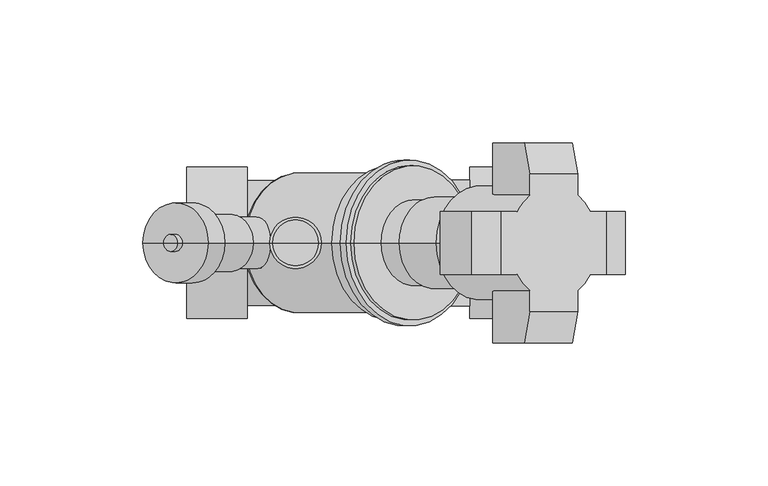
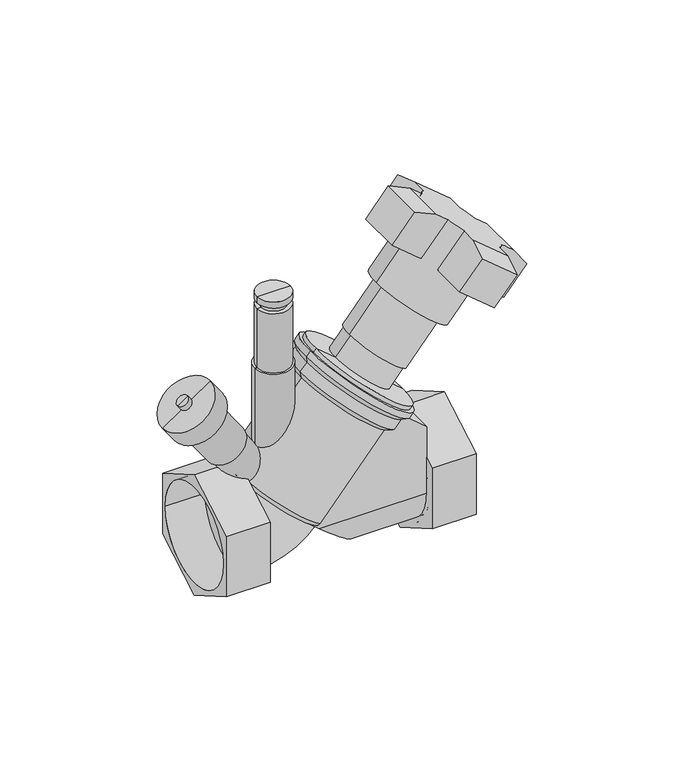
"""IFC4 building model written with IfcOpenShell, lengths in millimetres: valve geometry, 400_56_KOMF_VTR DN20-50 : DN 40, meet & vul/aftap."""

from ifc_helpers import new_model, si_unit, point, frame, origin, origin_2d, place, context, project, spatial, polyline, circle_curve, ellipse_curve, trimmed, segment, composite_curve, outline, extrude, source, transform, mapped, element, save
from ifc_brep_helpers import plane_surface, cylinder_surface, revolved_surface, advanced_brep


def valve_56e37d45(model_context):
    return source(origin(), model_context, "Body", "SolidModel", [
        advanced_brep(
        [(-38.9, -26.5, 15.2997821), (-38.9, -26.5, -15.2997821), (-38.9, 0.0, -30.5995643), (-38.9, 26.5, -15.2997821), (-38.9, 26.5, 15.2997821), (-38.9, 0.0, 30.5995643), (-60.0, -26.5, 15.2997821), (-60.0, 0.0, 30.5995643), (-60.0, 26.5, 15.2997821), (-60.0, 26.5, -15.2997821), (-60.0, 0.0, -30.5995643), (-60.0, -26.5, -15.2997821), (-60.0, -24.15, 0.0), (-60.0, 24.15, 0.0), (-40.9, -24.15, 0.0), (-40.9, 24.15, 0.0)],
        [
            (0, 1),
            (1, 2),
            (2, 3),
            (3, 4),
            (4, 5),
            (5, 0),
            (6, 7),
            (7, 8),
            (8, 9),
            (9, 10),
            (10, 11),
            (11, 6),
            (12, 13, circle_curve(frame((-60.0, 0.0, 0.0), z_axis=(1.0, 0.0, 0.0), x_axis=(0.0, 1.0, 0.0)), 24.15)),
            (13, 12, circle_curve(frame((-60.0, 0.0, 0.0), z_axis=(1.0, 0.0, 0.0), x_axis=(0.0, 1.0, 0.0)), 24.15)),
            (0, 6),
            (11, 1),
            (10, 2),
            (9, 3),
            (8, 4),
            (7, 5),
            (14, 15, circle_curve(frame((-40.9, 0.0, 0.0), z_axis=(-1.0, 0.0, 0.0), x_axis=(0.0, 1.0, 0.0)), 24.15)),
            (15, 14, circle_curve(frame((-40.9, 0.0, 0.0), z_axis=(-1.0, 0.0, 0.0), x_axis=(0.0, 1.0, 0.0)), 24.15)),
            (15, 13),
            (12, 14),
        ],
        [
            plane_surface(frame((-38.9, -26.5, 15.2997821), z_axis=(1.0, 0.0, 0.0), x_axis=(0.0, 0.0, -1.0))),
            plane_surface(frame((-60.0, -26.5, 15.2997821), z_axis=(-1.0, 0.0, 0.0), x_axis=(0.0, 0.0, 1.0))),
            plane_surface(frame((-38.9, -26.5, 15.2997821), z_axis=(0.0, -1.0, 0.0), x_axis=(-1.0, 0.0, 0.0))),
            plane_surface(frame((-38.9, -26.5, -15.2997821), z_axis=(0.0, -0.5000000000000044, -0.8660254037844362), x_axis=(-1.0, 0.0, 0.0))),
            plane_surface(frame((-38.9, 0.0, -30.5995643), z_axis=(0.0, 0.5000000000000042, -0.8660254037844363), x_axis=(-1.0, 0.0, 0.0))),
            plane_surface(frame((-38.9, 26.5, -15.2997821), z_axis=(0.0, 1.0, 0.0), x_axis=(-1.0, 0.0, 0.0))),
            plane_surface(frame((-38.9, 26.5, 15.2997821), z_axis=(0.0, 0.5000000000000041, 0.8660254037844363), x_axis=(-1.0, 0.0, 0.0))),
            plane_surface(frame((-38.9, 0.0, 30.5995643), z_axis=(0.0, -0.5000000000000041, 0.8660254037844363), x_axis=(-1.0, 0.0, 0.0))),
            plane_surface(frame((-40.9, 24.15, 0.0), z_axis=(-1.0, 0.0, 0.0), x_axis=(0.0, 0.0, 1.0))),
            revolved_surface(polyline([(-40.9, 24.15, 0.0), (-60.0, 24.15, 0.0)]), (-60.0, 0.0, 0.0), (1.0, 0.0, 0.0)),
        ],
        [
            (0, [[1, 2, 3, 4, 5, 6]]),
            (1, [[7, 8, 9, 10, 11, 12], [13, 14]]),
            (2, [[-1, 15, -12, 16]]),
            (3, [[-2, -16, -11, 17]]),
            (4, [[-3, -17, -10, 18]]),
            (5, [[-4, -18, -9, 19]]),
            (6, [[-5, -19, -8, 20]]),
            (7, [[-6, -20, -7, -15]]),
            (8, [[21, 22]]),
            (9, [[-22, 23, -13, 24]]),
            (9, [[-21, -24, -14, -23]]),
        ],
    ),
        advanced_brep(
        [(60.0, -26.5, 15.2997821), (60.0, -26.5, -15.2997821), (60.0, 0.0, -30.5995643), (60.0, 26.5, -15.2997821), (60.0, 26.5, 15.2997821), (60.0, 0.0, 30.5995643), (60.0, 24.15, 0.0), (60.0, -24.15, 0.0), (38.9, -26.5, 15.2997821), (38.9, 0.0, 30.5995643), (38.9, 26.5, 15.2997821), (38.9, 26.5, -15.2997821), (38.9, 0.0, -30.5995643), (38.9, -26.5, -15.2997821), (40.9, -24.15, 0.0), (40.9, 24.15, 0.0)],
        [
            (0, 1),
            (1, 2),
            (2, 3),
            (3, 4),
            (4, 5),
            (5, 0),
            (6, 7, circle_curve(frame((60.0, 0.0, 0.0), z_axis=(-1.0, 0.0, 0.0), x_axis=(0.0, 1.0, 0.0)), 24.15)),
            (7, 6, circle_curve(frame((60.0, 0.0, 0.0), z_axis=(-1.0, 0.0, 0.0), x_axis=(0.0, 1.0, 0.0)), 24.15)),
            (8, 9),
            (9, 10),
            (10, 11),
            (11, 12),
            (12, 13),
            (13, 8),
            (0, 8),
            (13, 1),
            (12, 2),
            (11, 3),
            (10, 4),
            (9, 5),
            (14, 15, circle_curve(frame((40.9, 0.0, 0.0), z_axis=(1.0, 0.0, 0.0), x_axis=(0.0, 1.0, 0.0)), 24.15)),
            (15, 14, circle_curve(frame((40.9, 0.0, 0.0), z_axis=(1.0, 0.0, 0.0), x_axis=(0.0, 1.0, 0.0)), 24.15)),
            (14, 7),
            (6, 15),
        ],
        [
            plane_surface(frame((60.0, -26.5, 15.2997821), z_axis=(1.0, 0.0, 0.0), x_axis=(0.0, 0.0, -1.0))),
            plane_surface(frame((38.9, -26.5, 15.2997821), z_axis=(-1.0, 0.0, 0.0), x_axis=(0.0, 0.0, 1.0))),
            plane_surface(frame((60.0, -26.5, 15.2997821), z_axis=(0.0, -1.0, 0.0), x_axis=(-1.0, 0.0, 0.0))),
            plane_surface(frame((60.0, -26.5, -15.2997821), z_axis=(0.0, -0.5000000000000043, -0.8660254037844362), x_axis=(-1.0, 0.0, 0.0))),
            plane_surface(frame((60.0, 0.0, -30.5995643), z_axis=(0.0, 0.5000000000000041, -0.8660254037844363), x_axis=(-1.0, 0.0, 0.0))),
            plane_surface(frame((60.0, 26.5, -15.2997821), z_axis=(0.0, 1.0, 0.0), x_axis=(-1.0, 0.0, 0.0))),
            plane_surface(frame((60.0, 26.5, 15.2997821), z_axis=(0.0, 0.5000000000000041, 0.8660254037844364), x_axis=(-1.0, 0.0, 0.0))),
            plane_surface(frame((60.0, 0.0, 30.5995643), z_axis=(0.0, -0.5000000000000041, 0.8660254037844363), x_axis=(-1.0, 0.0, 0.0))),
            plane_surface(frame((40.9, 24.15, 0.0), z_axis=(1.0, 0.0, 0.0), x_axis=(0.0, 0.0, -1.0))),
            revolved_surface(polyline([(60.0, 24.15, 0.0), (40.9, 24.15, 0.0)]), (40.9, 0.0, 0.0), (1.0, 0.0, 0.0)),
        ],
        [
            (0, [[1, 2, 3, 4, 5, 6], [7, 8]]),
            (1, [[9, 10, 11, 12, 13, 14]]),
            (2, [[-1, 15, -14, 16]]),
            (3, [[-2, -16, -13, 17]]),
            (4, [[-3, -17, -12, 18]]),
            (5, [[-4, -18, -11, 19]]),
            (6, [[-5, -19, -10, 20]]),
            (7, [[-6, -20, -9, -15]]),
            (8, [[21, 22]]),
            (9, [[-21, 23, -7, 24]]),
            (9, [[-22, -24, -8, -23]]),
        ],
    ),
        extrude(outline(polyline([(22.0, 40.9), (42.7748916, 32.7963256), (55.3534281, 17.8058095), (0.0, 16.9973074), (0.0, 40.9), (22.0, 40.9)])), frame((0.0, -2.0, 0.0), z_axis=(0.0, 1.0, 0.0), x_axis=(0.0, 0.0, 1.0)), (0.0, 0.0, 1.0), 4.0),
        extrude(outline(composite_curve([segment(trimmed(circle_curve(origin_2d(), 24.15), [point((0.0, -24.15))], [point((0.0, 24.15))], False, "CARTESIAN"), True, "CONTINUOUS"), segment(trimmed(circle_curve(origin_2d(), 24.15), [point((0.0, 24.15))], [point((0.0, -24.15))], False, "CARTESIAN"), True, "CONTINUOUS")], self_intersect=False)), frame((38.9, 0.0, 0.0), z_axis=(1.0, 0.0, 0.0), x_axis=(0.0, 1.0, 0.0)), (0.0, 0.0, 1.0), 2.0),
        advanced_brep(
        [(19.0913848, 0.0, 56.8855169), (39.7745847, 0.0, 39.5302515), (-1.5918152, 0.0, 74.2407824), (-39.2830222, 0.0, 22.3213938), (-4.8110223, 0.0, -6.6040486), (-22.0470223, 0.0, 7.8586726), (-8.6757306, 0.0, 61.9091912), (28.8604471, 0.0, 30.4125983), (-1.9933582, 0.0, -6.357535), (-39.5295359, 0.0, 25.1390579), (-9.3052665, 0.0, 65.0482491), (32.0611334, 0.0, 30.3377182), (-6.0913285, 0.0, 68.8784713), (35.2750715, 0.0, 34.1679404), (-6.3378421, 0.0, 71.6961354), (38.0927356, 0.0, 34.4144541), (-4.4094793, 0.0, 73.9942687), (40.0210984, 0.0, 36.7125874), (-2.8773904, 0.0, 72.7086935), (38.4890095, 0.0, 37.9981626)],
        [
            (0, 1),
            (1, 2, circle_curve(frame((19.0913848, 0.0, 56.8855169), z_axis=(0.6427876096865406, 0.0, 0.7660444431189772), x_axis=(0.7660444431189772, 0.0, -0.6427876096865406)), 27.0)),
            (2, 0),
            (2, 1, circle_curve(frame((19.0913848, 0.0, 56.8855169), z_axis=(0.6427876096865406, 0.0, 0.7660444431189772), x_axis=(0.7660444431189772, 0.0, -0.6427876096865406)), 27.0)),
            (3, 4, circle_curve(frame((-22.0470223, 0.0, 7.8586726), z_axis=(-0.6427876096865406, 0.0, -0.7660444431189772), x_axis=(0.7660444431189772, 0.0, -0.6427876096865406)), 22.5)),
            (4, 5),
            (5, 3),
            (4, 3, circle_curve(frame((-22.0470223, 0.0, 7.8586726), z_axis=(-0.6427876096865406, 0.0, -0.7660444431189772), x_axis=(0.7660444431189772, 0.0, -0.6427876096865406)), 22.5)),
            (6, 7, circle_curve(frame((10.0923582, 0.0, 46.1608947), z_axis=(-0.6427876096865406, 0.0, -0.7660444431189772), x_axis=(0.7660444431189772, 0.0, -0.6427876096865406)), 24.5)),
            (7, 8),
            (8, 9, circle_curve(frame((-20.761447, 0.0, 9.3907615), z_axis=(0.6427876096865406, 0.0, 0.7660444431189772), x_axis=(0.7660444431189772, 0.0, -0.6427876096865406)), 24.5)),
            (9, 6),
            (7, 6, circle_curve(frame((10.0923582, 0.0, 46.1608947), z_axis=(-0.6427876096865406, 0.0, -0.7660444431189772), x_axis=(0.7660444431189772, 0.0, -0.6427876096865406)), 24.5)),
            (9, 8, circle_curve(frame((-20.761447, 0.0, 9.3907615), z_axis=(0.6427876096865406, 0.0, 0.7660444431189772), x_axis=(0.7660444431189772, 0.0, -0.6427876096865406)), 24.5)),
            (6, 10),
            (10, 11, circle_curve(frame((11.3779335, 0.0, 47.6929836), z_axis=(-0.6427876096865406, 0.0, -0.7660444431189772), x_axis=(0.7660444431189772, 0.0, -0.6427876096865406)), 27.0)),
            (11, 7),
            (11, 10, circle_curve(frame((11.3779335, 0.0, 47.6929836), z_axis=(-0.6427876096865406, 0.0, -0.7660444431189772), x_axis=(0.7660444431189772, 0.0, -0.6427876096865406)), 27.0)),
            (10, 12),
            (12, 13, circle_curve(frame((14.5918715, 0.0, 51.5232058), z_axis=(-0.6427876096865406, 0.0, -0.7660444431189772), x_axis=(0.7660444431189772, 0.0, -0.6427876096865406)), 27.0)),
            (13, 11),
            (13, 12, circle_curve(frame((14.5918715, 0.0, 51.5232058), z_axis=(-0.6427876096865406, 0.0, -0.7660444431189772), x_axis=(0.7660444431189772, 0.0, -0.6427876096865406)), 27.0)),
            (12, 14),
            (14, 15, circle_curve(frame((15.8774467, 0.0, 53.0552947), z_axis=(-0.6427876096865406, 0.0, -0.7660444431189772), x_axis=(0.7660444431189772, 0.0, -0.6427876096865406)), 29.0)),
            (15, 13),
            (15, 14, circle_curve(frame((15.8774467, 0.0, 53.0552947), z_axis=(-0.6427876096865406, 0.0, -0.7660444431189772), x_axis=(0.7660444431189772, 0.0, -0.6427876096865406)), 29.0)),
            (14, 16),
            (16, 17, circle_curve(frame((17.8058095, 0.0, 55.3534281), z_axis=(-0.6427876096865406, 0.0, -0.7660444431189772), x_axis=(0.7660444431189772, 0.0, -0.6427876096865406)), 29.0)),
            (17, 15),
            (17, 16, circle_curve(frame((17.8058095, 0.0, 55.3534281), z_axis=(-0.6427876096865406, 0.0, -0.7660444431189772), x_axis=(0.7660444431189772, 0.0, -0.6427876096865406)), 29.0)),
            (16, 18),
            (18, 19, circle_curve(frame((17.8058095, 0.0, 55.3534281), z_axis=(-0.6427876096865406, 0.0, -0.7660444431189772), x_axis=(0.7660444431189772, 0.0, -0.6427876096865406)), 27.0)),
            (19, 17),
            (19, 18, circle_curve(frame((17.8058095, 0.0, 55.3534281), z_axis=(-0.6427876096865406, 0.0, -0.7660444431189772), x_axis=(0.7660444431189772, 0.0, -0.6427876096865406)), 27.0)),
            (1, 19),
            (18, 2),
            (3, 9, circle_curve(frame((-37.997447, 0.0, 23.8534827), z_axis=(0.0, 1.0000000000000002, 0.0), x_axis=(0.6427876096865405, 0.0, 0.766044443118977)), 2.0)),
            (8, 4, circle_curve(frame((-3.5254471, 0.0, -5.0719597), z_axis=(0.0, 1.0000000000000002, 0.0), x_axis=(0.6427876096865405, 0.0, 0.766044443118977)), 2.0)),
        ],
        [
            plane_surface(frame((19.0913848, 0.0, 56.8855169), z_axis=(0.6427876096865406, 0.0, 0.7660444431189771), x_axis=(0.7660444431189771, 0.0, -0.6427876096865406))),
            plane_surface(frame((-22.0470223, 0.0, 7.8586726), z_axis=(-0.6427876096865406, 0.0, -0.7660444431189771), x_axis=(0.7660444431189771, 0.0, -0.6427876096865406))),
            cylinder_surface(frame((-28.6412315, 0.0, 0.0), z_axis=(0.6427876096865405, 0.0, 0.766044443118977), x_axis=(0.7660444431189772, 0.0, -0.6427876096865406)), 24.5),
            revolved_surface(polyline([(28.8604471, 0.0, 30.4125983), (32.0611334, 0.0, 30.3377182)]), (-28.6412315, 0.0, 0.0), (0.6427876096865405, 0.0, 0.766044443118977)),
            cylinder_surface(frame((-28.6412315, 0.0, 0.0), z_axis=(0.6427876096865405, 0.0, 0.766044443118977), x_axis=(0.7660444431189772, 0.0, -0.6427876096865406)), 27.0),
            revolved_surface(polyline([(35.2750715, 0.0, 34.1679404), (38.0927356, 0.0, 34.4144541)]), (-28.6412315, 0.0, 0.0), (0.6427876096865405, 0.0, 0.766044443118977)),
            cylinder_surface(frame((-28.6412315, 0.0, 0.0), z_axis=(0.6427876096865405, 0.0, 0.766044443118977), x_axis=(0.7660444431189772, 0.0, -0.6427876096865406)), 29.0),
            plane_surface(frame((17.8058095, 0.0, 55.3534281), z_axis=(0.6427876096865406, 0.0, 0.7660444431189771), x_axis=(0.7660444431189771, 0.0, -0.6427876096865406))),
            revolved_surface(trimmed(ellipse_curve(frame((-3.5254471, 0.0, -5.0719597), z_axis=(0.0, -1.0000000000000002, 0.0), x_axis=(0.6427876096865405, 0.0, 0.766044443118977)), 2.0, 2.0), [point((-4.8110223, 0.0, -6.6040486))], [point((-1.9933582, 0.0, -6.357535))], True, "CARTESIAN"), (-28.6412315, 0.0, 0.0), (0.6427876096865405, 0.0, 0.766044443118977)),
        ],
        [
            (0, [[1, 2, 3]]),
            (0, [[-1, -3, 4]]),
            (1, [[5, 6, 7]]),
            (1, [[-6, 8, -7]]),
            (2, [[9, 10, 11, 12]]),
            (2, [[-10, 13, -12, 14]]),
            (3, [[-9, 15, 16, 17]]),
            (3, [[-13, -17, 18, -15]]),
            (4, [[-16, 19, 20, 21]]),
            (4, [[-18, -21, 22, -19]]),
            (5, [[-20, 23, 24, 25]]),
            (5, [[-22, -25, 26, -23]]),
            (6, [[-24, 27, 28, 29]]),
            (6, [[-26, -29, 30, -27]]),
            (7, [[-28, 31, 32, 33]]),
            (7, [[-30, -33, 34, -31]]),
            (4, [[-2, 35, -32, 36]]),
            (4, [[-4, -36, -34, -35]]),
            (8, [[-5, 37, -11, 38]]),
            (8, [[-8, -38, -14, -37]]),
        ],
    ),
        advanced_brep(
        [(-31.0470223, 0.0, 74.4939245), (-13.0470223, 0.0, 74.4939245), (-13.0470223, 0.0, 7.8586726), (-31.0470223, 0.0, 7.8586726), (-30.0470223, 0.0, 74.4939245), (-14.0470223, 0.0, 74.4939245), (-30.0470223, 0.0, 104.4939245), (-14.0470223, 0.0, 104.4939245), (-28.0470223, 0.0, 104.4939245), (-16.0470223, 0.0, 104.4939245), (-22.0470223, 0.0, 7.8586726), (-28.0470223, 0.0, 107.4939245), (-16.0470223, 0.0, 107.4939245), (-30.0470223, 0.0, 107.4939245), (-14.0470223, 0.0, 107.4939245), (-30.0470223, 0.0, 110.4939245), (-14.0470223, 0.0, 110.4939245), (-22.0470223, 0.0, 110.4939245)],
        [
            (0, 1, circle_curve(frame((-22.0470223, 0.0, 74.4939245), z_axis=(0.0, 0.0, -1.0), x_axis=(1.0, 0.0, 0.0)), 9.0)),
            (1, 2),
            (2, 3, circle_curve(frame((-22.0470223, 0.0, 7.8586726), z_axis=(0.0, 0.0, 1.0), x_axis=(1.0, 0.0, 0.0)), 9.0)),
            (3, 0),
            (1, 0, circle_curve(frame((-22.0470223, 0.0, 74.4939245), z_axis=(0.0, 0.0, -1.0), x_axis=(1.0, 0.0, 0.0)), 9.0)),
            (3, 2, circle_curve(frame((-22.0470223, 0.0, 7.8586726), z_axis=(0.0, 0.0, 1.0), x_axis=(1.0, 0.0, 0.0)), 9.0)),
            (4, 5, circle_curve(frame((-22.0470223, 0.0, 74.4939245), z_axis=(0.0, 0.0, -1.0), x_axis=(1.0, 0.0, 0.0)), 8.0)),
            (5, 1),
            (0, 4),
            (5, 4, circle_curve(frame((-22.0470223, 0.0, 74.4939245), z_axis=(0.0, 0.0, -1.0), x_axis=(1.0, 0.0, 0.0)), 8.0)),
            (6, 7, circle_curve(frame((-22.0470223, 0.0, 104.4939245), z_axis=(0.0, 0.0, -1.0), x_axis=(1.0, 0.0, 0.0)), 8.0)),
            (7, 5),
            (4, 6),
            (7, 6, circle_curve(frame((-22.0470223, 0.0, 104.4939245), z_axis=(0.0, 0.0, -1.0), x_axis=(1.0, 0.0, 0.0)), 8.0)),
            (8, 9, circle_curve(frame((-22.0470223, 0.0, 104.4939245), z_axis=(0.0, 0.0, -1.0), x_axis=(1.0, 0.0, 0.0)), 6.0)),
            (9, 7),
            (6, 8),
            (9, 8, circle_curve(frame((-22.0470223, 0.0, 104.4939245), z_axis=(0.0, 0.0, -1.0), x_axis=(1.0, 0.0, 0.0)), 6.0)),
            (2, 10),
            (10, 3),
            (11, 12, circle_curve(frame((-22.0470223, 0.0, 107.4939245), z_axis=(0.0, 0.0, -1.0), x_axis=(1.0, 0.0, 0.0)), 6.0)),
            (12, 9),
            (8, 11),
            (12, 11, circle_curve(frame((-22.0470223, 0.0, 107.4939245), z_axis=(0.0, 0.0, -1.0), x_axis=(1.0, 0.0, 0.0)), 6.0)),
            (13, 14, circle_curve(frame((-22.0470223, 0.0, 107.4939245), z_axis=(0.0, 0.0, -1.0), x_axis=(1.0, 0.0, 0.0)), 8.0)),
            (14, 12),
            (11, 13),
            (14, 13, circle_curve(frame((-22.0470223, 0.0, 107.4939245), z_axis=(0.0, 0.0, -1.0), x_axis=(1.0, 0.0, 0.0)), 8.0)),
            (15, 16, circle_curve(frame((-22.0470223, 0.0, 110.4939245), z_axis=(0.0, 0.0, -1.0), x_axis=(1.0, 0.0, 0.0)), 8.0)),
            (16, 14),
            (13, 15),
            (16, 15, circle_curve(frame((-22.0470223, 0.0, 110.4939245), z_axis=(0.0, 0.0, -1.0), x_axis=(1.0, 0.0, 0.0)), 8.0)),
            (17, 16),
            (15, 17),
        ],
        [
            cylinder_surface(frame((-22.0470223, 0.0, 7.8586726), z_axis=(0.0, 0.0, 1.0), x_axis=(1.0, 0.0, 0.0)), 9.0),
            plane_surface(frame((-22.0470223, 0.0, 74.4939245), z_axis=(0.0, 0.0, 1.0), x_axis=(1.0, 0.0, 0.0))),
            cylinder_surface(frame((-22.0470223, 0.0, 7.8586726), z_axis=(0.0, 0.0, 1.0), x_axis=(1.0, 0.0, 0.0)), 8.0),
            plane_surface(frame((-22.0470223, 0.0, 104.4939245), z_axis=(0.0, 0.0, 1.0), x_axis=(1.0, 0.0, 0.0))),
            plane_surface(frame((-22.0470223, 0.0, 7.8586726), z_axis=(0.0, 0.0, -1.0), x_axis=(1.0, 0.0, 0.0))),
            cylinder_surface(frame((-22.0470223, 0.0, 7.8586726), z_axis=(0.0, 0.0, 1.0), x_axis=(1.0, 0.0, 0.0)), 6.0),
            plane_surface(frame((-22.0470223, 0.0, 107.4939245), z_axis=(0.0, 0.0, -1.0), x_axis=(1.0, 0.0, 0.0))),
            plane_surface(frame((-22.0470223, 0.0, 110.4939245), z_axis=(0.0, 0.0, 1.0), x_axis=(1.0, 0.0, 0.0))),
        ],
        [
            (0, [[1, 2, 3, 4]]),
            (0, [[5, -4, 6, -2]]),
            (1, [[7, 8, -1, 9]]),
            (1, [[10, -9, -5, -8]]),
            (2, [[11, 12, -7, 13]]),
            (2, [[14, -13, -10, -12]]),
            (3, [[15, 16, -11, 17]]),
            (3, [[18, -17, -14, -16]]),
            (4, [[-3, 19, 20]]),
            (4, [[-6, -20, -19]]),
            (5, [[21, 22, -15, 23]]),
            (5, [[24, -23, -18, -22]]),
            (6, [[25, 26, -21, 27]]),
            (6, [[28, -27, -24, -26]]),
            (2, [[29, 30, -25, 31]]),
            (2, [[32, -31, -28, -30]]),
            (7, [[33, -29, 34]]),
            (7, [[-34, -32, -33]]),
        ],
    ),
        advanced_brep(
        [(-66.0458574, 0.0, 51.5176065), (-48.0245124, 0.0, 64.1362881), (-48.8436644, 0.0, 63.5627117), (-65.2267053, 0.0, 52.0911829), (-29.4193906, 0.0, 2.6964847), (-14.6746539, 0.0, 13.0208605), (-22.0470223, 0.0, 7.8586726), (-52.3624481, 0.0, 35.4625664), (-37.6177113, 0.0, 45.7869423), (-53.1816001, 0.0, 34.88899), (-36.7985593, 0.0, 46.3605187), (-67.1930102, 0.0, 53.1559106), (-49.1716653, 0.0, 65.7745922), (-69.6504664, 0.0, 51.4351813), (-46.7142091, 0.0, 67.4953215), (-75.3862307, 0.0, 59.6267017), (-52.4499735, 0.0, 75.6868419), (-66.3755582, 0.0, 65.9360425), (-61.460646, 0.0, 69.3775011), (-68.0962875, 0.0, 68.3934986), (-63.1813753, 0.0, 71.8349573), (-65.6388314, 0.0, 70.114228)],
        [
            (0, 1, circle_curve(frame((-57.0351849, 0.0, 57.8269473), z_axis=(0.5735764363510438, 0.0, -0.8191520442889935), x_axis=(0.8191520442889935, 0.0, 0.5735764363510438)), 11.0)),
            (1, 2),
            (2, 3, circle_curve(frame((-57.0351849, 0.0, 57.8269473), z_axis=(-0.5735764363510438, 0.0, 0.8191520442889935), x_axis=(0.8191520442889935, 0.0, 0.5735764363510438)), 10.0)),
            (3, 0),
            (1, 0, circle_curve(frame((-57.0351849, 0.0, 57.8269473), z_axis=(0.5735764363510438, 0.0, -0.8191520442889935), x_axis=(0.8191520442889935, 0.0, 0.5735764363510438)), 11.0)),
            (3, 2, circle_curve(frame((-57.0351849, 0.0, 57.8269473), z_axis=(-0.5735764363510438, 0.0, 0.8191520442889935), x_axis=(0.8191520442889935, 0.0, 0.5735764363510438)), 10.0)),
            (4, 5, circle_curve(frame((-22.0470223, 0.0, 7.8586726), z_axis=(0.5735764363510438, 0.0, -0.8191520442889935), x_axis=(0.8191520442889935, 0.0, 0.5735764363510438)), 9.0)),
            (5, 6),
            (6, 4),
            (5, 4, circle_curve(frame((-22.0470223, 0.0, 7.8586726), z_axis=(0.5735764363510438, 0.0, -0.8191520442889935), x_axis=(0.8191520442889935, 0.0, 0.5735764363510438)), 9.0)),
            (7, 8, circle_curve(frame((-44.9900797, 0.0, 40.6247544), z_axis=(0.5735764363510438, 0.0, -0.8191520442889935), x_axis=(0.8191520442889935, 0.0, 0.5735764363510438)), 9.0)),
            (8, 5),
            (4, 7),
            (8, 7, circle_curve(frame((-44.9900797, 0.0, 40.6247544), z_axis=(0.5735764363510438, 0.0, -0.8191520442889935), x_axis=(0.8191520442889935, 0.0, 0.5735764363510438)), 9.0)),
            (9, 10, circle_curve(frame((-44.9900797, 0.0, 40.6247544), z_axis=(0.5735764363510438, 0.0, -0.8191520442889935), x_axis=(0.8191520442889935, 0.0, 0.5735764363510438)), 10.0)),
            (10, 8),
            (7, 9),
            (10, 9, circle_curve(frame((-44.9900797, 0.0, 40.6247544), z_axis=(0.5735764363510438, 0.0, -0.8191520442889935), x_axis=(0.8191520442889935, 0.0, 0.5735764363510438)), 10.0)),
            (2, 10),
            (9, 3),
            (11, 12, circle_curve(frame((-58.1823377, 0.0, 59.4652514), z_axis=(0.5735764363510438, 0.0, -0.8191520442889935), x_axis=(0.8191520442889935, 0.0, 0.5735764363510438)), 11.0)),
            (12, 1),
            (0, 11),
            (12, 11, circle_curve(frame((-58.1823377, 0.0, 59.4652514), z_axis=(0.5735764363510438, 0.0, -0.8191520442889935), x_axis=(0.8191520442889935, 0.0, 0.5735764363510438)), 11.0)),
            (13, 14, circle_curve(frame((-58.1823377, 0.0, 59.4652514), z_axis=(0.5735764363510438, 0.0, -0.8191520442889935), x_axis=(0.8191520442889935, 0.0, 0.5735764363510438)), 14.0)),
            (14, 12),
            (11, 13),
            (14, 13, circle_curve(frame((-58.1823377, 0.0, 59.4652514), z_axis=(0.5735764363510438, 0.0, -0.8191520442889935), x_axis=(0.8191520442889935, 0.0, 0.5735764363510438)), 14.0)),
            (15, 16, circle_curve(frame((-63.9181021, 0.0, 67.6567718), z_axis=(0.5735764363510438, 0.0, -0.8191520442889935), x_axis=(0.8191520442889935, 0.0, 0.5735764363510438)), 14.0)),
            (16, 14),
            (13, 15),
            (16, 15, circle_curve(frame((-63.9181021, 0.0, 67.6567718), z_axis=(0.5735764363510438, 0.0, -0.8191520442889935), x_axis=(0.8191520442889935, 0.0, 0.5735764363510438)), 14.0)),
            (17, 18, circle_curve(frame((-63.9181021, 0.0, 67.6567718), z_axis=(0.5735764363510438, 0.0, -0.8191520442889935), x_axis=(0.8191520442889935, 0.0, 0.5735764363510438)), 3.0)),
            (18, 16),
            (15, 17),
            (18, 17, circle_curve(frame((-63.9181021, 0.0, 67.6567718), z_axis=(0.5735764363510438, 0.0, -0.8191520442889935), x_axis=(0.8191520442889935, 0.0, 0.5735764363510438)), 3.0)),
            (19, 20, circle_curve(frame((-65.6388314, 0.0, 70.114228), z_axis=(0.5735764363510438, 0.0, -0.8191520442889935), x_axis=(0.8191520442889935, 0.0, 0.5735764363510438)), 3.0)),
            (20, 18),
            (17, 19),
            (20, 19, circle_curve(frame((-65.6388314, 0.0, 70.114228), z_axis=(0.5735764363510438, 0.0, -0.8191520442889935), x_axis=(0.8191520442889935, 0.0, 0.5735764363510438)), 3.0)),
            (21, 20),
            (19, 21),
        ],
        [
            plane_surface(frame((-57.0351849, 0.0, 57.8269473), z_axis=(0.5735764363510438, 0.0, -0.8191520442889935), x_axis=(0.8191520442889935, 0.0, 0.5735764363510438))),
            plane_surface(frame((-22.0470223, 0.0, 7.8586726), z_axis=(0.5735764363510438, 0.0, -0.8191520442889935), x_axis=(0.8191520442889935, 0.0, 0.5735764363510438))),
            cylinder_surface(frame((-22.0470223, 0.0, 7.8586726), z_axis=(-0.5735764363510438, 0.0, 0.8191520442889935), x_axis=(0.8191520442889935, 0.0, 0.5735764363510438)), 9.0),
            plane_surface(frame((-44.9900797, 0.0, 40.6247544), z_axis=(0.5735764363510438, 0.0, -0.8191520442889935), x_axis=(0.8191520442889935, 0.0, 0.5735764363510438))),
            cylinder_surface(frame((-22.0470223, 0.0, 7.8586726), z_axis=(-0.5735764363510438, 0.0, 0.8191520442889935), x_axis=(0.8191520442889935, 0.0, 0.5735764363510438)), 10.0),
            cylinder_surface(frame((-22.0470223, 0.0, 7.8586726), z_axis=(-0.5735764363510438, 0.0, 0.8191520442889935), x_axis=(0.8191520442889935, 0.0, 0.5735764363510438)), 11.0),
            plane_surface(frame((-58.1823377, 0.0, 59.4652514), z_axis=(0.5735764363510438, 0.0, -0.8191520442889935), x_axis=(0.8191520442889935, 0.0, 0.5735764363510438))),
            cylinder_surface(frame((-22.0470223, 0.0, 7.8586726), z_axis=(-0.5735764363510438, 0.0, 0.8191520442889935), x_axis=(0.8191520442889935, 0.0, 0.5735764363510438)), 14.0),
            plane_surface(frame((-63.9181021, 0.0, 67.6567718), z_axis=(-0.5735764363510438, 0.0, 0.8191520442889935), x_axis=(0.8191520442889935, 0.0, 0.5735764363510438))),
            cylinder_surface(frame((-22.0470223, 0.0, 7.8586726), z_axis=(-0.5735764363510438, 0.0, 0.8191520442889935), x_axis=(0.8191520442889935, 0.0, 0.5735764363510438)), 3.0),
            plane_surface(frame((-65.6388314, 0.0, 70.114228), z_axis=(-0.5735764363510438, 0.0, 0.8191520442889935), x_axis=(0.8191520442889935, 0.0, 0.5735764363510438))),
        ],
        [
            (0, [[1, 2, 3, 4]]),
            (0, [[5, -4, 6, -2]]),
            (1, [[7, 8, 9]]),
            (1, [[10, -9, -8]]),
            (2, [[11, 12, -7, 13]]),
            (2, [[14, -13, -10, -12]]),
            (3, [[15, 16, -11, 17]]),
            (3, [[18, -17, -14, -16]]),
            (4, [[-3, 19, -15, 20]]),
            (4, [[-6, -20, -18, -19]]),
            (5, [[21, 22, -1, 23]]),
            (5, [[24, -23, -5, -22]]),
            (6, [[25, 26, -21, 27]]),
            (6, [[28, -27, -24, -26]]),
            (7, [[29, 30, -25, 31]]),
            (7, [[32, -31, -28, -30]]),
            (8, [[33, 34, -29, 35]]),
            (8, [[36, -35, -32, -34]]),
            (9, [[37, 38, -33, 39]]),
            (9, [[40, -39, -36, -38]]),
            (10, [[41, -37, 42]]),
            (10, [[-42, -40, -41]]),
        ],
    ),
        advanced_brep(
        [(15.0049567, 0.0, 75.351359), (37.98629, 0.0, 56.0677307), (30.5820514, 0.0, 47.2437028), (7.6007181, 0.0, 66.5273311), (14.2389122, 0.0, 75.9941466), (38.7523344, 0.0, 55.4249431), (30.3086025, 0.0, 95.1452577), (54.8220247, 0.0, 74.5760542), (27.2444247, 0.0, 97.7164081), (57.8862024, 0.0, 72.0049037), (40.1001769, 0.0, 113.037297), (42.6256009, 11.0, 110.9182146), (55.4813531, 11.0, 126.2391035), (59.8503291, 16.7032931, 122.5730974), (46.9945769, 16.7032931, 107.2522085), (63.8475546, 16.7032931, 93.1108811), (76.7033068, 16.7032931, 108.43177), (81.0722828, 11.0, 104.7657638), (68.2165306, 11.0, 89.444875), (70.7419546, 0.0, 87.3257926), (68.2165306, -11.0, 89.444875), (81.0722828, -11.0, 104.7657638), (76.7033068, -16.7032931, 108.43177), (63.8475546, -16.7032931, 93.1108811), (46.9945769, -16.7032931, 107.2522085), (59.8503291, -16.7032931, 122.5730974), (55.4813531, -11.0, 126.2391035), (42.6256009, -11.0, 110.9182146), (86.6618846, -11.0, 100.075531), (86.6618846, 11.0, 100.075531), (76.7033068, 24.0, 108.43177), (59.8503291, 24.0, 122.5730974), (49.8917513, 11.0, 130.9293363), (49.8917513, -11.0, 130.9293363), (59.8503291, -24.0, 122.5730974), (76.7033068, -24.0, 108.43177), (19.0913848, 0.0, 56.8855169), (39.5368996, -11.0, 135.7018667), (28.6095103, -11.0, 122.6791111), (82.2326213, -11.0, 77.6839785), (93.1600106, -11.0, 90.706734), (93.1600106, 11.0, 90.706734), (82.2326213, 11.0, 77.6839785), (28.6095103, 11.0, 122.6791111), (39.5368996, 11.0, 135.7018667), (63.8475546, 35.0, 93.1108811), (74.774944, 35.0, 106.1336366), (74.774944, -35.0, 106.1336366), (63.8475546, -35.0, 93.1108811), (46.9945769, -35.0, 107.2522085), (57.9219663, -35.0, 120.274964), (57.9219663, 35.0, 120.274964), (46.9945769, 35.0, 107.2522085)],
        [
            (0, 1, circle_curve(frame((26.4956233, 0.0, 65.7095449), z_axis=(-0.6427876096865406, 0.0, -0.7660444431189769), x_axis=(0.7660444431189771, 0.0, -0.6427876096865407)), 15.0)),
            (1, 2),
            (2, 3, circle_curve(frame((19.0913848, 0.0, 56.8855169), z_axis=(0.6427876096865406, 0.0, 0.7660444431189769), x_axis=(0.7660444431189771, 0.0, -0.6427876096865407)), 15.0)),
            (3, 0),
            (1, 0, circle_curve(frame((26.4956233, 0.0, 65.7095449), z_axis=(-0.6427876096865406, 0.0, -0.7660444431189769), x_axis=(0.7660444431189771, 0.0, -0.6427876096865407)), 15.0)),
            (3, 2, circle_curve(frame((19.0913848, 0.0, 56.8855169), z_axis=(0.6427876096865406, 0.0, 0.7660444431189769), x_axis=(0.7660444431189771, 0.0, -0.6427876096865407)), 15.0)),
            (0, 4),
            (4, 5, circle_curve(frame((26.4956233, 0.0, 65.7095449), z_axis=(-0.6427876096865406, 0.0, -0.7660444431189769), x_axis=(0.7660444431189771, 0.0, -0.6427876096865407)), 16.0)),
            (5, 1),
            (5, 4, circle_curve(frame((26.4956233, 0.0, 65.7095449), z_axis=(-0.6427876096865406, 0.0, -0.7660444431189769), x_axis=(0.7660444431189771, 0.0, -0.6427876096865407)), 16.0)),
            (4, 6),
            (6, 7, circle_curve(frame((42.5653136, 0.0, 84.8606559), z_axis=(-0.6427876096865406, 0.0, -0.7660444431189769), x_axis=(0.7660444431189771, 0.0, -0.6427876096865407)), 16.0)),
            (7, 5),
            (7, 6, circle_curve(frame((42.5653136, 0.0, 84.8606559), z_axis=(-0.6427876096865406, 0.0, -0.7660444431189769), x_axis=(0.7660444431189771, 0.0, -0.6427876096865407)), 16.0)),
            (6, 8),
            (8, 9, circle_curve(frame((42.5653136, 0.0, 84.8606559), z_axis=(-0.6427876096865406, 0.0, -0.7660444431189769), x_axis=(0.7660444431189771, 0.0, -0.6427876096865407)), 20.0)),
            (9, 7),
            (9, 8, circle_curve(frame((42.5653136, 0.0, 84.8606559), z_axis=(-0.6427876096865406, 0.0, -0.7660444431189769), x_axis=(0.7660444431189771, 0.0, -0.6427876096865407)), 20.0)),
            (8, 10),
            (10, 11, circle_curve(frame((55.4210658, 0.0, 100.1815448), z_axis=(-0.6427876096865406, 0.0, -0.7660444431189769), x_axis=(0.7660444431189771, 0.0, -0.6427876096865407)), 20.0)),
            (11, 12),
            (12, 13, circle_curve(frame((68.276818, 0.0, 115.5024337), z_axis=(-0.6427876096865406, 0.0, -0.7660444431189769), x_axis=(0.7660444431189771, 0.0, -0.6427876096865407)), 20.0)),
            (13, 14),
            (14, 15, circle_curve(frame((55.4210658, 0.0, 100.1815448), z_axis=(-0.6427876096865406, 0.0, -0.7660444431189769), x_axis=(0.7660444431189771, 0.0, -0.6427876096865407)), 20.0)),
            (15, 16),
            (16, 17, circle_curve(frame((68.276818, 0.0, 115.5024337), z_axis=(-0.6427876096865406, 0.0, -0.7660444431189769), x_axis=(0.7660444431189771, 0.0, -0.6427876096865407)), 20.0)),
            (17, 18),
            (18, 19, circle_curve(frame((55.4210658, 0.0, 100.1815448), z_axis=(-0.6427876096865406, 0.0, -0.7660444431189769), x_axis=(0.7660444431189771, 0.0, -0.6427876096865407)), 20.0)),
            (19, 9),
            (19, 20, circle_curve(frame((55.4210658, 0.0, 100.1815448), z_axis=(-0.6427876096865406, 0.0, -0.7660444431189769), x_axis=(0.7660444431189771, 0.0, -0.6427876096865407)), 20.0)),
            (20, 21),
            (21, 22, circle_curve(frame((68.276818, 0.0, 115.5024337), z_axis=(-0.6427876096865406, 0.0, -0.7660444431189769), x_axis=(0.7660444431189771, 0.0, -0.6427876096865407)), 20.0)),
            (22, 23),
            (23, 24, circle_curve(frame((55.4210658, 0.0, 100.1815448), z_axis=(-0.6427876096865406, 0.0, -0.7660444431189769), x_axis=(0.7660444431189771, 0.0, -0.6427876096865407)), 20.0)),
            (24, 25),
            (25, 26, circle_curve(frame((68.276818, 0.0, 115.5024337), z_axis=(-0.6427876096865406, 0.0, -0.7660444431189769), x_axis=(0.7660444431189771, 0.0, -0.6427876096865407)), 20.0)),
            (26, 27),
            (27, 10, circle_curve(frame((55.4210658, 0.0, 100.1815448), z_axis=(-0.6427876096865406, 0.0, -0.7660444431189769), x_axis=(0.7660444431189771, 0.0, -0.6427876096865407)), 20.0)),
            (28, 29),
            (29, 17),
            (16, 30),
            (30, 31),
            (31, 13),
            (12, 32),
            (32, 33),
            (33, 26),
            (25, 34),
            (34, 35),
            (35, 22),
            (21, 28),
            (2, 36),
            (36, 3),
            (33, 37),
            (37, 38),
            (38, 27),
            (39, 40),
            (40, 28),
            (20, 39),
            (29, 41),
            (41, 42),
            (42, 18),
            (43, 44),
            (44, 32),
            (11, 43),
            (44, 37),
            (43, 38),
            (42, 39),
            (41, 40),
            (45, 46),
            (46, 30),
            (15, 45),
            (35, 47),
            (47, 48),
            (48, 23),
            (49, 50),
            (50, 34),
            (24, 49),
            (31, 51),
            (51, 52),
            (52, 14),
            (45, 52),
            (51, 46),
            (50, 47),
            (49, 48),
        ],
        [
            cylinder_surface(frame((-28.6412315, 0.0, 0.0), z_axis=(0.6427876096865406, 0.0, 0.7660444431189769), x_axis=(0.7660444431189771, 0.0, -0.6427876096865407)), 15.0),
            plane_surface(frame((26.4956233, 0.0, 65.7095449), z_axis=(-0.6427876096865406, 0.0, -0.7660444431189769), x_axis=(0.7660444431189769, 0.0, -0.6427876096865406))),
            cylinder_surface(frame((-28.6412315, 0.0, 0.0), z_axis=(0.6427876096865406, 0.0, 0.7660444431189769), x_axis=(0.7660444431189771, 0.0, -0.6427876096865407)), 16.0),
            plane_surface(frame((42.5653136, 0.0, 84.8606559), z_axis=(-0.6427876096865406, 0.0, -0.7660444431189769), x_axis=(0.7660444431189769, 0.0, -0.6427876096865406))),
            cylinder_surface(frame((-28.6412315, 0.0, 0.0), z_axis=(0.6427876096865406, 0.0, 0.7660444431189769), x_axis=(0.7660444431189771, 0.0, -0.6427876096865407)), 20.0),
            plane_surface(frame((68.276818, 0.0, 115.5024337), z_axis=(0.6427876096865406, 0.0, 0.7660444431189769), x_axis=(0.7660444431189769, 0.0, -0.6427876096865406))),
            plane_surface(frame((19.0913848, 0.0, 56.8855169), z_axis=(-0.6427876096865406, 0.0, -0.7660444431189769), x_axis=(0.7660444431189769, 0.0, -0.6427876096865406))),
            plane_surface(frame((49.8917513, -11.0, 130.9293363), z_axis=(0.0, -1.0, 0.0), x_axis=(-0.7660444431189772, 0.0, 0.6427876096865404))),
            plane_surface(frame((49.8917513, 11.0, 130.9293363), z_axis=(0.0, 1.0, 0.0), x_axis=(0.7660444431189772, 0.0, -0.6427876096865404))),
            plane_surface(frame((49.8917513, -11.0, 130.9293363), z_axis=(0.41857860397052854, 0.0, 0.9081805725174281), x_axis=(0.0, 1.0, 0.0))),
            plane_surface(frame((39.5368996, -11.0, 135.7018667), z_axis=(-0.7660444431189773, 0.0, 0.6427876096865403), x_axis=(0.0, 1.0, 0.0))),
            plane_surface(frame((28.6095103, -11.0, 122.6791111), z_axis=(-0.6427876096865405, 0.0, -0.7660444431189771), x_axis=(0.0, 1.0, 0.0))),
            plane_surface(frame((82.2326213, -11.0, 77.6839785), z_axis=(0.7660444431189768, 0.0, -0.6427876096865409), x_axis=(0.0, 1.0, 0.0))),
            plane_surface(frame((93.1600106, -11.0, 90.706734), z_axis=(0.8216978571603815, 0.0, 0.5699233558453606), x_axis=(0.0, 1.0, 0.0))),
            plane_surface(frame((74.774944, 35.0, 106.1336366), z_axis=(0.7660444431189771, 0.0, -0.6427876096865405), x_axis=(0.6427876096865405, 0.0, 0.7660444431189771))),
            plane_surface(frame((57.9219663, 35.0, 120.274964), z_axis=(-0.7660444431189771, 0.0, 0.6427876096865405), x_axis=(-0.6427876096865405, 0.0, -0.7660444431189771))),
            plane_surface(frame((63.8475546, 35.0, 93.1108811), z_axis=(0.0, 1.0, 0.0), x_axis=(-0.7660444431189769, 0.0, 0.6427876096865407))),
            plane_surface(frame((74.774944, 35.0, 106.1336366), z_axis=(0.6201382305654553, 0.2631174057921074, 0.7390519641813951), x_axis=(-0.7660444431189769, 0.0, 0.6427876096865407))),
            plane_surface(frame((76.7033068, -24.0, 108.43177), z_axis=(0.6201382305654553, -0.2631174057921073, 0.7390519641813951), x_axis=(-0.7660444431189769, 0.0, 0.6427876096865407))),
            plane_surface(frame((74.774944, -35.0, 106.1336366), z_axis=(0.0, -1.0, 0.0), x_axis=(-0.7660444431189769, 0.0, 0.6427876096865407))),
            plane_surface(frame((63.8475546, -35.0, 93.1108811), z_axis=(-0.6427876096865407, 0.0, -0.7660444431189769), x_axis=(-0.7660444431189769, 0.0, 0.6427876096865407))),
        ],
        [
            (0, [[1, 2, 3, 4]]),
            (0, [[-2, 5, -4, 6]]),
            (1, [[-1, 7, 8, 9]]),
            (1, [[-5, -9, 10, -7]]),
            (2, [[-8, 11, 12, 13]]),
            (2, [[-10, -13, 14, -11]]),
            (3, [[-12, 15, 16, 17]]),
            (3, [[-14, -17, 18, -15]]),
            (4, [[-16, 19, 20, 21, 22, 23, 24, 25, 26, 27, 28, 29]]),
            (4, [[-18, -29, 30, 31, 32, 33, 34, 35, 36, 37, 38, -19]]),
            (5, [[39, 40, -26, 41, 42, 43, -22, 44, 45, 46, -36, 47, 48, 49, -32, 50]]),
            (6, [[-3, 51, 52]]),
            (6, [[-6, -52, -51]]),
            (7, [[53, 54, 55, -37, -46]]),
            (7, [[56, 57, -50, -31, 58]]),
            (8, [[59, 60, 61, -27, -40]]),
            (8, [[62, 63, -44, -21, 64]]),
            (9, [[-53, -45, -63, 65]]),
            (10, [[-54, -65, -62, 66]]),
            (11, [[-66, -64, -20, -38, -55]]),
            (11, [[67, -58, -30, -28, -61]]),
            (12, [[-56, -67, -60, 68]]),
            (13, [[-57, -68, -59, -39]]),
            (14, [[69, 70, -41, -25, 71]]),
            (14, [[72, 73, 74, -33, -49]]),
            (15, [[75, 76, -47, -35, 77]]),
            (15, [[78, 79, 80, -23, -43]]),
            (16, [[-69, 81, -79, 82]]),
            (17, [[-70, -82, -78, -42]]),
            (18, [[-72, -48, -76, 83]]),
            (19, [[-73, -83, -75, 84]]),
            (20, [[-81, -71, -24, -80]]),
            (20, [[-84, -77, -34, -74]]),
        ],
    ),
        extrude(outline(composite_curve([segment(trimmed(circle_curve(origin_2d(), 24.15), [point((0.0, -24.15))], [point((0.0, 24.15))], False, "CARTESIAN"), True, "CONTINUOUS"), segment(trimmed(circle_curve(origin_2d(), 24.15), [point((0.0, 24.15))], [point((0.0, -24.15))], False, "CARTESIAN"), True, "CONTINUOUS")], self_intersect=False)), frame((-40.9, 0.0, 0.0), z_axis=(1.0, 0.0, 0.0), x_axis=(0.0, 1.0, 0.0)), (0.0, 0.0, 1.0), 2.0),
        advanced_brep(
        [(-38.9, 0.0, -22.0), (-38.9, 0.0, 22.0), (-5.1940445, 0.0, -6.2826548)],
        [
            (0, 1, circle_curve(frame((-38.9, 0.0, 0.0), z_axis=(-1.0, 0.0, 0.0), x_axis=(0.0, 0.0, 1.0)), 22.0)),
            (1, 0, circle_curve(frame((-38.9, 0.0, 0.0), z_axis=(-1.0, 0.0, 0.0), x_axis=(0.0, 0.0, 1.0)), 22.0)),
            (2, 1, circle_curve(frame((-22.0470223, 0.0, 7.8586726), z_axis=(0.6427876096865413, 0.0, 0.7660444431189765), x_axis=(-0.7660444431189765, 0.0, 0.6427876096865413)), 22.0)),
            (1, 2, circle_curve(frame((-22.0470223, 0.0, 7.8586726), z_axis=(0.6427876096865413, 0.0, 0.7660444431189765), x_axis=(-0.7660444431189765, 0.0, 0.6427876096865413)), 22.0)),
            (2, 0, circle_curve(frame((-38.9, 0.0, 22.0), z_axis=(0.0, 1.0, 0.0), x_axis=(0.0, 0.0, -1.0)), 44.0)),
        ],
        [
            plane_surface(frame((-38.9, 1430.1039728, 22.0), z_axis=(-1.0, 0.0, 0.0), x_axis=(0.0, 0.0, -1.0))),
            plane_surface(frame((-38.9, 1430.1039728, 22.0), z_axis=(0.6427876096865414, 0.0, 0.7660444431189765), x_axis=(0.7660444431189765, 0.0, -0.6427876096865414))),
            revolved_surface(trimmed(ellipse_curve(frame((-38.9, 0.0, 0.0), z_axis=(1.0, 0.0, 0.0), x_axis=(0.0, 0.0, 1.0)), 22.0, 22.0), [point((-38.9, 0.0, -22.0))], [point((-38.9, 0.0, 22.0))], True, "CARTESIAN"), (-38.9, 1430.1039728, 22.0), (0.0, 1.0, 0.0)),
            revolved_surface(trimmed(ellipse_curve(frame((-38.9, 0.0, 0.0), z_axis=(1.0, 0.0, 0.0), x_axis=(0.0, 0.0, 1.0)), 22.0, 22.0), [point((-38.9, 0.0, 22.0))], [point((-38.9, 0.0, -22.0))], True, "CARTESIAN"), (-38.9, 1430.1039728, 22.0), (0.0, 1.0, 0.0)),
        ],
        [
            (0, [[1, 2]]),
            (1, [[3, 4]]),
            (2, [[5, -2, -3]]),
            (3, [[-1, -5, -4]]),
        ],
    ),
        advanced_brep(
        [(40.9, -22.0, 0.0), (40.9, 22.0, 0.0), (38.9, -22.0, 0.0), (-12.681421, -22.0, 0.0), (-12.681421, 22.0, 0.0), (38.9, 22.0, 0.0), (-22.0470223, 20.54851, 7.8586726), (-22.0470223, -20.54851, 7.8586726), (-22.0470223, -22.0, 7.8586726), (-22.0470223, 22.0, 7.8586726), (38.9, -22.0, 33.7370788), (15.8774467, -22.0, 53.0552947), (38.9, 22.0, 33.7370788), (15.8774467, 22.0, 53.0552947)],
        [
            (0, 1, circle_curve(frame((40.9, 0.0, 0.0), z_axis=(1.0, 0.0, 0.0), x_axis=(0.0, 1.0, 0.0)), 22.0)),
            (1, 0, circle_curve(frame((40.9, 0.0, 0.0), z_axis=(1.0, 0.0, 0.0), x_axis=(0.0, 1.0, 0.0)), 22.0)),
            (0, 2),
            (2, 3),
            (3, 4, ellipse_curve(frame((-12.681421, 0.0, 0.0), z_axis=(0.6427876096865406, 0.0, 0.7660444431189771), x_axis=(0.7660444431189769, 0.0, -0.6427876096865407)), 34.2259242, 22.0)),
            (4, 5),
            (5, 1),
            (5, 2, circle_curve(frame((38.9, 0.0, 0.0), z_axis=(1.0, 0.0, 0.0), x_axis=(0.0, 1.0, 0.0)), 22.0)),
            (6, 7, ellipse_curve(frame((-12.681421, 0.0, 0.0), z_axis=(0.6427876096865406, 0.0, 0.7660444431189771), x_axis=(0.7660444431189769, 0.0, -0.6427876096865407)), 34.2259242, 22.0)),
            (7, 6, ellipse_curve(frame((-28.6412315, 0.0, 0.0), z_axis=(-0.7660444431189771, 0.0, 0.6427876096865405), x_axis=(0.6427876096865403, 0.0, 0.7660444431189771)), 28.7189604, 22.0)),
            (3, 8),
            (8, 7),
            (6, 9),
            (9, 4),
            (10, 11),
            (11, 8),
            (2, 10),
            (12, 5),
            (9, 13),
            (13, 12),
            (10, 12),
            (13, 11),
        ],
        [
            plane_surface(frame((40.9, 22.0, 0.0), z_axis=(1.0, 0.0, 0.0), x_axis=(0.0, 0.0, 1.0))),
            cylinder_surface(frame((-40.9, 0.0, 0.0), z_axis=(1.0, 0.0, 0.0), x_axis=(0.0, 1.0, 0.0)), 22.0),
            plane_surface(frame((-22.0470223, 0.0, 7.8586726), z_axis=(-0.6427876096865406, 0.0, -0.7660444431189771), x_axis=(0.7660444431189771, 0.0, -0.6427876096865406))),
            plane_surface(frame((15.8774467, -22.0, 53.0552947), z_axis=(0.0, -1.0000000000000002, 0.0), x_axis=(-0.7660444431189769, 0.0, 0.6427876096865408))),
            plane_surface(frame((15.8774467, 22.0, 53.0552947), z_axis=(0.0, 1.0000000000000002, 0.0), x_axis=(0.7660444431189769, 0.0, -0.6427876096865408))),
            plane_surface(frame((38.9, -22.0, 33.7370788), z_axis=(0.6427876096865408, 0.0, 0.7660444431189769), x_axis=(0.0, 1.0, 0.0))),
            plane_surface(frame((15.8774467, -22.0, 53.0552947), z_axis=(-0.7660444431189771, 0.0, 0.6427876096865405), x_axis=(0.0, 1.0, 0.0))),
            plane_surface(frame((38.9, -22.0, 0.0), z_axis=(1.0, 0.0, 0.0), x_axis=(0.0, 1.0, 0.0))),
        ],
        [
            (0, [[1, 2]]),
            (1, [[-1, 3, 4, 5, 6, 7]]),
            (1, [[-2, -7, 8, -3]]),
            (1, [[9, 10]]),
            (2, [[11, 12, -9, 13, 14, -5]]),
            (3, [[15, 16, -11, -4, 17]]),
            (4, [[18, -6, -14, 19, 20]]),
            (5, [[-15, 21, -20, 22]]),
            (6, [[-16, -22, -19, -13, -10, -12]]),
            (7, [[-17, -8, -18, -21]]),
        ],
    ),
    ])


if __name__ == "__main__":
    model = new_model("IFC4")
    model_context = context("Model", 3, world=origin())
    ifc_project = project(units=[si_unit("LENGTHUNIT", "METRE", prefix="MILLI")], contexts=[model_context])
    site = spatial("IfcSite", under=ifc_project)
    building = spatial("IfcBuilding", under=site)
    placement = place(None, origin())
    valve_shape = valve_56e37d45(model_context)
    element("IfcValve", 1, ObjectType="400_56_KOMF_VTR DN20-50 : DN 40, meet & vul/aftap", at=placement, inside=building, context=model_context, shape_type="MappedRepresentation", body=[
        mapped(valve_shape, transform((0.0, 0.0, 0.0), x_axis=(1.0, 0.0, 0.0), y_axis=(0.0, 1.0, 0.0), z_axis=(0.0, 0.0, 1.0))),
    ])
    save(model, "model.ifc")
